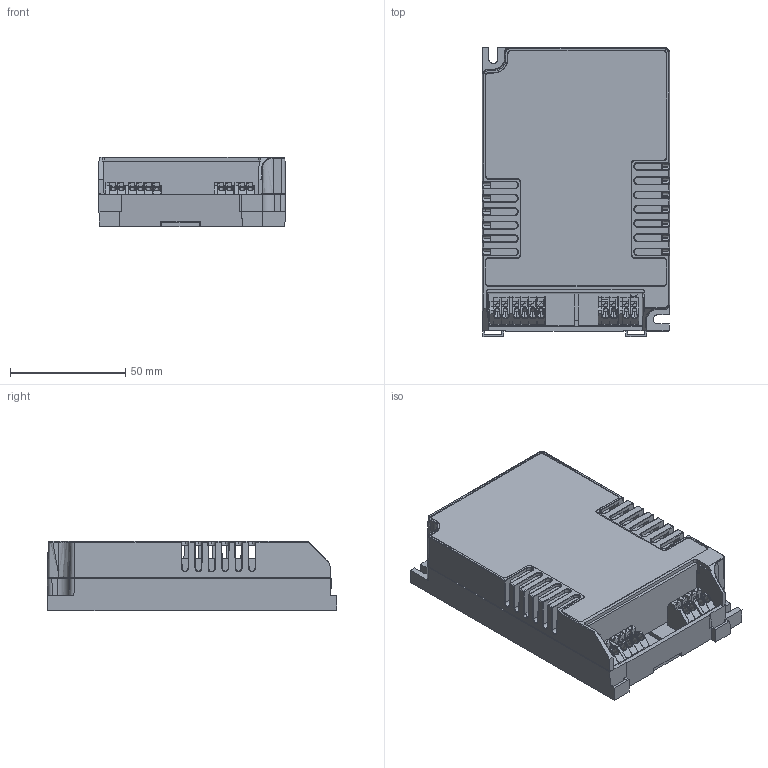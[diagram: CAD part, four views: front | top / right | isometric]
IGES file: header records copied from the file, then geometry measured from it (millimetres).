
Start section: SolidWorks IGES file using analytic representation for surfaces
Global section: file name: C:\Users\vuorinen_kari\Desktop\prj\1x50w\LC1x50-E-DA.IGS; native system: SolidWorks 2014; preprocessor: SolidWorks 2014; author: Vuorinen_Kari; date: 150605.145138; units: millimetre
Bounding box: 81.04 x 125.32 x 30 mm (x, y, z)
Surface area: 67196 mm2 (no closed solid volume)
Topology: 0 solids, 0 shells, 681 faces, 6358 edges, 6355 vertices
Faces by surface type: bspline 416, revolution 265
